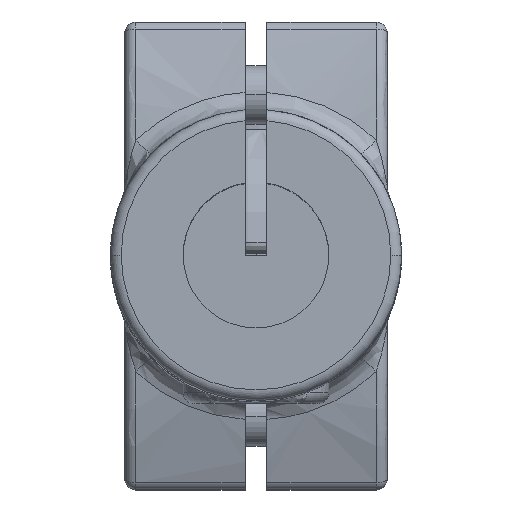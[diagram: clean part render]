
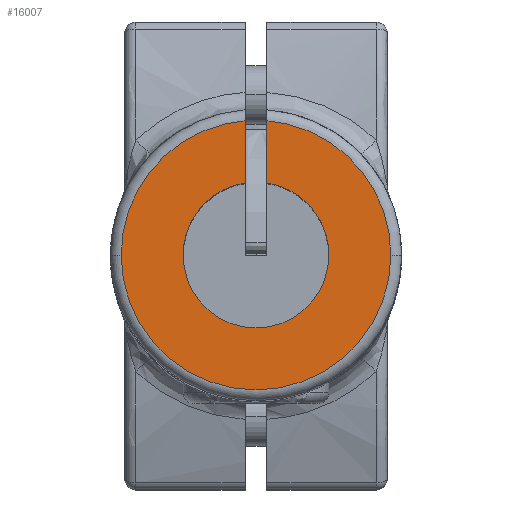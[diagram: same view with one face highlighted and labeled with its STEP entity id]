
A CAD part, top view. The second image highlights one B-rep face of the part: STEP entity #16007.
In plain terms, the highlighted planar face has unit normal (0, 0, 1) as drawn and (0, 0, -1) by its records, which use the part's own axes.
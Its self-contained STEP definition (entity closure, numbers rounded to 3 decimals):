
#86 = CARTESIAN_POINT ( 'NONE',  ( 0., 0., 0. ) ) ;
#312 = ORIENTED_EDGE ( 'NONE', *, *, #10648, .F. ) ;
#438 = LINE ( 'NONE', #538, #2917 ) ;
#490 = DIRECTION ( 'NONE',  ( 0., 0., 1. ) ) ;
#538 = CARTESIAN_POINT ( 'NONE',  ( 1.5, 0., 0. ) ) ;
#1114 = EDGE_CURVE ( 'NONE', #5693, #5157, #8873, .T. ) ;
#1346 = DIRECTION ( 'NONE',  ( 0., 0., -1. ) ) ;
#1443 = DIRECTION ( 'NONE',  ( 1., 0., 0. ) ) ;
#1779 = CARTESIAN_POINT ( 'NONE',  ( 1.5, 9.887, 0. ) ) ;
#2917 = VECTOR ( 'NONE', #14157, 1000. ) ;
#3129 = DIRECTION ( 'NONE',  ( 1., 0., 0. ) ) ;
#3362 = CARTESIAN_POINT ( 'NONE',  ( 10., 0., 0. ) ) ;
#4083 = CARTESIAN_POINT ( 'NONE',  ( -1.5, 18.439, 0. ) ) ;
#4278 = CIRCLE ( 'NONE', #7765, 18.5 ) ;
#4366 = VERTEX_POINT ( 'NONE', #15832 ) ;
#4458 = AXIS2_PLACEMENT_3D ( 'NONE', #9790, #490, #18770 ) ;
#4503 = VERTEX_POINT ( 'NONE', #3362 ) ;
#4520 = CARTESIAN_POINT ( 'NONE',  ( 0., 0., 0. ) ) ;
#4613 = DIRECTION ( 'NONE',  ( 0., 0., -1. ) ) ;
#4638 = ORIENTED_EDGE ( 'NONE', *, *, #15938, .T. ) ;
#4894 = AXIS2_PLACEMENT_3D ( 'NONE', #16611, #1346, #1443 ) ;
#5157 = VERTEX_POINT ( 'NONE', #4083 ) ;
#5453 = DIRECTION ( 'NONE',  ( 0., 0., 1. ) ) ;
#5561 = CARTESIAN_POINT ( 'NONE',  ( 0., 0., 0. ) ) ;
#5693 = VERTEX_POINT ( 'NONE', #10740 ) ;
#6053 = VERTEX_POINT ( 'NONE', #10612 ) ;
#6207 = VERTEX_POINT ( 'NONE', #14905 ) ;
#6248 = CARTESIAN_POINT ( 'NONE',  ( -18.5, 0., 0. ) ) ;
#7765 = AXIS2_PLACEMENT_3D ( 'NONE', #86, #13907, #16852 ) ;
#8765 = FACE_OUTER_BOUND ( 'NONE', #8777, .T. ) ;
#8777 = EDGE_LOOP ( 'NONE', ( #312, #14081, #18161, #14041, #10224, #4638, #10824, #11746 ) ) ;
#8873 = LINE ( 'NONE', #13507, #17624 ) ;
#9544 = EDGE_CURVE ( 'NONE', #6053, #17806, #12967, .T. ) ;
#9790 = CARTESIAN_POINT ( 'NONE',  ( 0., 0., 0. ) ) ;
#10224 = ORIENTED_EDGE ( 'NONE', *, *, #1114, .F. ) ;
#10440 = EDGE_CURVE ( 'NONE', #4503, #17686, #13789, .T. ) ;
#10612 = CARTESIAN_POINT ( 'NONE',  ( 18.5, 0., 0. ) ) ;
#10648 = EDGE_CURVE ( 'NONE', #4366, #17686, #438, .T. ) ;
#10740 = CARTESIAN_POINT ( 'NONE',  ( -1.5, 9.887, 0. ) ) ;
#10824 = ORIENTED_EDGE ( 'NONE', *, *, #18733, .T. ) ;
#11428 = EDGE_CURVE ( 'NONE', #4366, #6053, #4278, .T. ) ;
#11640 = EDGE_CURVE ( 'NONE', #17806, #5157, #13557, .T. ) ;
#11746 = ORIENTED_EDGE ( 'NONE', *, *, #10440, .T. ) ;
#12052 = DIRECTION ( 'NONE',  ( -1., 0., 0. ) ) ;
#12967 = CIRCLE ( 'NONE', #17797, 18.5 ) ;
#13108 = CIRCLE ( 'NONE', #4458, 10. ) ;
#13507 = CARTESIAN_POINT ( 'NONE',  ( -1.5, 0., 0. ) ) ;
#13557 = CIRCLE ( 'NONE', #4894, 18.5 ) ;
#13789 = CIRCLE ( 'NONE', #17354, 10. ) ;
#13907 = DIRECTION ( 'NONE',  ( 0., 0., -1. ) ) ;
#14041 = ORIENTED_EDGE ( 'NONE', *, *, #11640, .T. ) ;
#14081 = ORIENTED_EDGE ( 'NONE', *, *, #11428, .T. ) ;
#14157 = DIRECTION ( 'NONE',  ( 0., -1., 0. ) ) ;
#14905 = CARTESIAN_POINT ( 'NONE',  ( -10., 0., 0. ) ) ;
#15832 = CARTESIAN_POINT ( 'NONE',  ( 1.5, 18.439, 0. ) ) ;
#15938 = EDGE_CURVE ( 'NONE', #5693, #6207, #13108, .T. ) ;
#16007 = ADVANCED_FACE ( 'NONE', ( #8765 ), #19269, .F. ) ;
#16333 = AXIS2_PLACEMENT_3D ( 'NONE', #5561, #16539, #17846 ) ;
#16539 = DIRECTION ( 'NONE',  ( 0., 0., 1. ) ) ;
#16599 = DIRECTION ( 'NONE',  ( 0., 0., 1. ) ) ;
#16611 = CARTESIAN_POINT ( 'NONE',  ( 0., 0., 0. ) ) ;
#16782 = CARTESIAN_POINT ( 'NONE',  ( 0., 0., 0. ) ) ;
#16852 = DIRECTION ( 'NONE',  ( 1., 0., 0. ) ) ;
#17354 = AXIS2_PLACEMENT_3D ( 'NONE', #4520, #16599, #12052 ) ;
#17624 = VECTOR ( 'NONE', #19667, 1000. ) ;
#17626 = CARTESIAN_POINT ( 'NONE',  ( 0., 0., 0. ) ) ;
#17686 = VERTEX_POINT ( 'NONE', #1779 ) ;
#17797 = AXIS2_PLACEMENT_3D ( 'NONE', #16782, #4613, #3129 ) ;
#17806 = VERTEX_POINT ( 'NONE', #6248 ) ;
#17832 = DIRECTION ( 'NONE',  ( -1., 0., 0. ) ) ;
#17846 = DIRECTION ( 'NONE',  ( 1., 0., 0. ) ) ;
#18161 = ORIENTED_EDGE ( 'NONE', *, *, #9544, .T. ) ;
#18435 = AXIS2_PLACEMENT_3D ( 'NONE', #17626, #5453, #17832 ) ;
#18733 = EDGE_CURVE ( 'NONE', #6207, #4503, #19718, .T. ) ;
#18770 = DIRECTION ( 'NONE',  ( -1., 0., 0. ) ) ;
#19269 = PLANE ( 'NONE',  #16333 ) ;
#19667 = DIRECTION ( 'NONE',  ( 0., 1., 0. ) ) ;
#19718 = CIRCLE ( 'NONE', #18435, 10. ) ;
